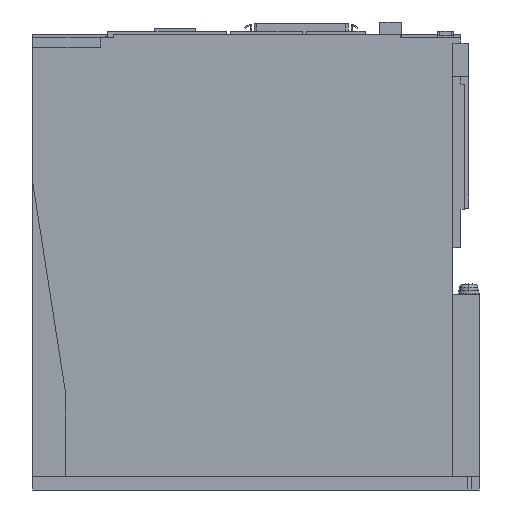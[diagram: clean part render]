
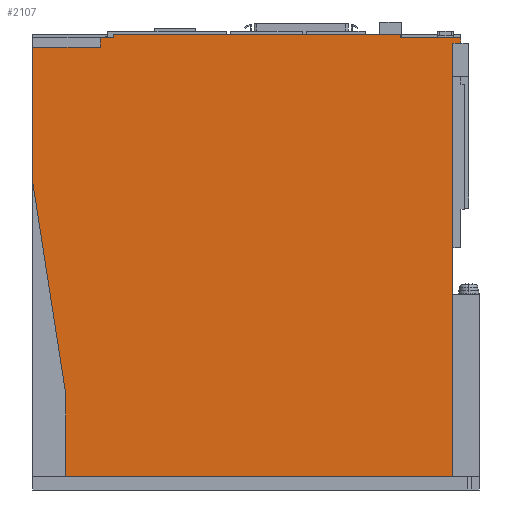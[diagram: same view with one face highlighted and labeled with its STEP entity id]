
A CAD part, left-side view. The second image highlights one B-rep face of the part: STEP entity #2107.
In plain terms, the highlighted planar face has unit normal (-1, 0, 0).
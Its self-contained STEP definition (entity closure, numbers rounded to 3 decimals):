
#675=DIRECTION('',(0.,-1.,0.));
#676=VECTOR('',#675,145.5);
#677=CARTESIAN_POINT('',(-20.,71.5,0.));
#678=LINE('',#677,#676);
#739=DIRECTION('',(0.,-1.,0.));
#740=VECTOR('',#739,3.);
#741=CARTESIAN_POINT('',(-20.,-74.,163.));
#742=LINE('',#741,#740);
#743=DIRECTION('',(0.,-1.,0.));
#744=VECTOR('',#743,25.5);
#745=CARTESIAN_POINT('',(-20.,84.,161.5));
#746=LINE('',#745,#744);
#747=DIRECTION('',(0.,0.,1.));
#748=VECTOR('',#747,3.5);
#749=CARTESIAN_POINT('',(-20.,58.5,161.5));
#750=LINE('',#749,#748);
#751=DIRECTION('',(0.,0.,1.));
#752=VECTOR('',#751,1.2);
#753=CARTESIAN_POINT('',(-20.,53.5,165.));
#754=LINE('',#753,#752);
#755=DIRECTION('',(0.,0.,1.));
#756=VECTOR('',#755,163.);
#757=CARTESIAN_POINT('',(-20.,-74.,0.));
#758=LINE('',#757,#756);
#759=DIRECTION('',(0.,0.,1.));
#760=VECTOR('',#759,30.8);
#761=CARTESIAN_POINT('',(-20.,71.5,0.));
#762=LINE('',#761,#760);
#763=DIRECTION('',(0.,0.154,0.988));
#764=VECTOR('',#763,81.168);
#765=CARTESIAN_POINT('',(-20.,71.5,30.8));
#766=LINE('',#765,#764);
#767=DIRECTION('',(0.,0.,1.));
#768=VECTOR('',#767,50.5);
#769=CARTESIAN_POINT('',(-20.,84.,111.));
#770=LINE('',#769,#768);
#923=DIRECTION('',(0.,1.,0.));
#924=VECTOR('',#923,22.5);
#925=CARTESIAN_POINT('',(-20.,-77.,165.));
#926=LINE('',#925,#924);
#972=DIRECTION('',(0.,1.,0.));
#973=VECTOR('',#972,5.);
#974=CARTESIAN_POINT('',(-20.,53.5,165.));
#975=LINE('',#974,#973);
#1307=DIRECTION('',(0.,-1.,0.));
#1308=VECTOR('',#1307,108.);
#1309=CARTESIAN_POINT('',(-20.,53.5,166.2));
#1310=LINE('',#1309,#1308);
#1333=DIRECTION('',(0.,0.,1.));
#1334=VECTOR('',#1333,1.2);
#1335=CARTESIAN_POINT('',(-20.,-54.5,165.));
#1336=LINE('',#1335,#1334);
#1473=DIRECTION('',(0.,0.,-1.));
#1474=VECTOR('',#1473,2.);
#1475=CARTESIAN_POINT('',(-20.,-77.,165.));
#1476=LINE('',#1475,#1474);
#1657=CARTESIAN_POINT('',(-20.,71.5,0.));
#1658=VERTEX_POINT('',#1657);
#1659=CARTESIAN_POINT('',(-20.,71.5,30.8));
#1660=VERTEX_POINT('',#1659);
#1661=CARTESIAN_POINT('',(-20.,84.,111.));
#1662=VERTEX_POINT('',#1661);
#1669=CARTESIAN_POINT('',(-20.,-74.,0.));
#1671=VERTEX_POINT('',#1669);
#1699=CARTESIAN_POINT('',(-20.,-77.,165.));
#1700=CARTESIAN_POINT('',(-20.,-77.,163.));
#1701=VERTEX_POINT('',#1699);
#1702=VERTEX_POINT('',#1700);
#1719=CARTESIAN_POINT('',(-20.,-74.,163.));
#1720=VERTEX_POINT('',#1719);
#1771=CARTESIAN_POINT('',(-20.,53.5,166.2));
#1772=CARTESIAN_POINT('',(-20.,-54.5,166.2));
#1773=VERTEX_POINT('',#1771);
#1774=VERTEX_POINT('',#1772);
#1779=CARTESIAN_POINT('',(-20.,53.5,165.));
#1780=VERTEX_POINT('',#1779);
#1781=CARTESIAN_POINT('',(-20.,-54.5,165.));
#1782=VERTEX_POINT('',#1781);
#1881=CARTESIAN_POINT('',(-20.,58.5,161.5));
#1883=VERTEX_POINT('',#1881);
#1957=CARTESIAN_POINT('',(-20.,58.5,165.));
#1958=VERTEX_POINT('',#1957);
#1959=CARTESIAN_POINT('',(-20.,84.,161.5));
#1960=VERTEX_POINT('',#1959);
#2075=CARTESIAN_POINT('',(-20.,84.,0.));
#2076=DIRECTION('',(-1.,0.,0.));
#2077=DIRECTION('',(0.,-1.,0.));
#2078=AXIS2_PLACEMENT_3D('',#2075,#2076,#2077);
#2079=PLANE('',#2078);
#2081=ORIENTED_EDGE('',*,*,#2080,.T.);
#2083=ORIENTED_EDGE('',*,*,#2082,.T.);
#2085=ORIENTED_EDGE('',*,*,#2084,.F.);
#2087=ORIENTED_EDGE('',*,*,#2086,.T.);
#2089=ORIENTED_EDGE('',*,*,#2088,.T.);
#2091=ORIENTED_EDGE('',*,*,#2090,.F.);
#2093=ORIENTED_EDGE('',*,*,#2092,.F.);
#2095=ORIENTED_EDGE('',*,*,#2094,.T.);
#2096=ORIENTED_EDGE('',*,*,#2068,.F.);
#2097=ORIENTED_EDGE('',*,*,#2037,.F.);
#2098=ORIENTED_EDGE('',*,*,#1998,.F.);
#2100=ORIENTED_EDGE('',*,*,#2099,.T.);
#2102=ORIENTED_EDGE('',*,*,#2101,.T.);
#2104=ORIENTED_EDGE('',*,*,#2103,.T.);
#2105=EDGE_LOOP('',(#2081,#2083,#2085,#2087,#2089,#2091,#2093,#2095,#2096,#2097,
#2098,#2100,#2102,#2104));
#2106=FACE_OUTER_BOUND('',#2105,.F.);
#2107=ADVANCED_FACE('',(#2106),#2079,.T.);
#1998=EDGE_CURVE('',#1658,#1671,#678,.T.);
#2037=EDGE_CURVE('',#1671,#1720,#758,.T.);
#2068=EDGE_CURVE('',#1720,#1702,#742,.T.);
#2080=EDGE_CURVE('',#1960,#1883,#746,.T.);
#2082=EDGE_CURVE('',#1883,#1958,#750,.T.);
#2084=EDGE_CURVE('',#1780,#1958,#975,.T.);
#2086=EDGE_CURVE('',#1780,#1773,#754,.T.);
#2088=EDGE_CURVE('',#1773,#1774,#1310,.T.);
#2090=EDGE_CURVE('',#1782,#1774,#1336,.T.);
#2092=EDGE_CURVE('',#1701,#1782,#926,.T.);
#2094=EDGE_CURVE('',#1701,#1702,#1476,.T.);
#2099=EDGE_CURVE('',#1658,#1660,#762,.T.);
#2101=EDGE_CURVE('',#1660,#1662,#766,.T.);
#2103=EDGE_CURVE('',#1662,#1960,#770,.T.);
